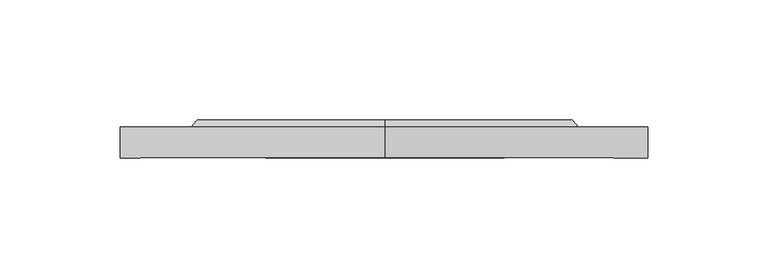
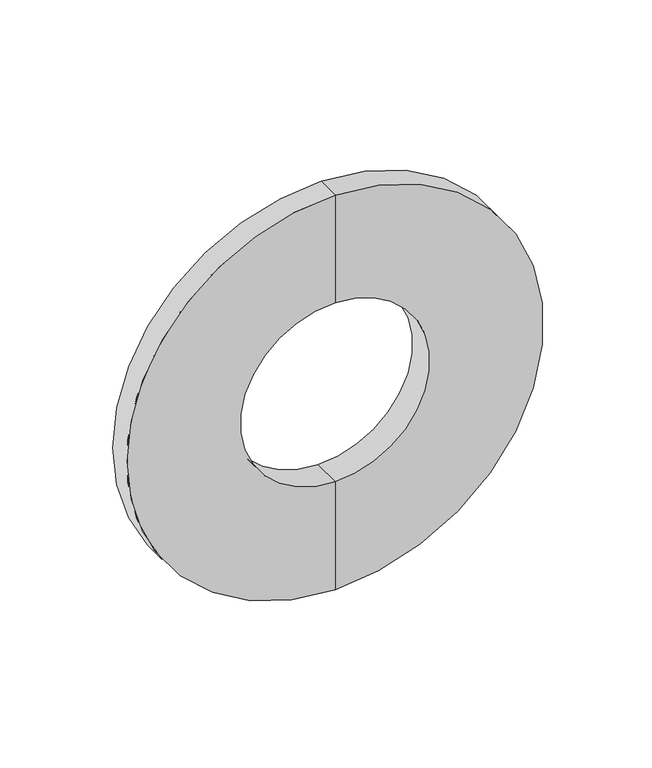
"""IFC4 building model written with IfcOpenShell, lengths in millimetres: pipe fitting geometry, Фланец : Фланец."""

from ifc_helpers import new_model, si_unit, frame, origin, place, context, project, spatial, polyline, circle_curve, source, transform, mapped, element, save
from ifc_brep_helpers import plane_surface, cylinder_surface, revolved_surface, advanced_brep


def pipe_fitting_22e410b1(model_context):
    return source(origin(), model_context, "Body", "AdvancedBrep", [
        advanced_brep(
        [(0.0, 0.0, -110.0), (0.0, 0.0, 110.0), (0.0, 12.7, 110.0), (0.0, 12.7, -110.0), (0.0, 0.0, -50.0), (0.0, 0.0, 50.0), (0.0, 15.7, -50.0), (0.0, 15.7, 50.0), (0.0, 15.7, -78.5), (0.0, 15.7, 78.5), (0.0, 12.7, -81.0), (0.0, 12.7, 81.0)],
        [
            (0, 1, circle_curve(frame((0.0, 0.0, 0.0), z_axis=(0.0, 1.0, 0.0), x_axis=(0.0, 0.0, 1.0)), 110.0)),
            (1, 2),
            (2, 3, circle_curve(frame((0.0, 12.7, 0.0), z_axis=(0.0, -1.0, 0.0), x_axis=(0.0, 0.0, 1.0)), 110.0)),
            (3, 0),
            (1, 0, circle_curve(frame((0.0, 0.0, 0.0), z_axis=(0.0, 1.0, 0.0), x_axis=(0.0, 0.0, 1.0)), 110.0)),
            (3, 2, circle_curve(frame((0.0, 12.7, 0.0), z_axis=(0.0, -1.0, 0.0), x_axis=(0.0, 0.0, 1.0)), 110.0)),
            (4, 5, circle_curve(frame((0.0, 0.0, 0.0), z_axis=(0.0, 1.0, 0.0), x_axis=(0.0, 0.0, 1.0)), 50.0)),
            (5, 1),
            (0, 4),
            (5, 4, circle_curve(frame((0.0, 0.0, 0.0), z_axis=(0.0, 1.0, 0.0), x_axis=(0.0, 0.0, 1.0)), 50.0)),
            (6, 7, circle_curve(frame((0.0, 15.7, 0.0), z_axis=(0.0, 1.0, 0.0), x_axis=(0.0, 0.0, 1.0)), 50.0)),
            (7, 5),
            (4, 6),
            (7, 6, circle_curve(frame((0.0, 15.7, 0.0), z_axis=(0.0, 1.0, 0.0), x_axis=(0.0, 0.0, 1.0)), 50.0)),
            (8, 9, circle_curve(frame((0.0, 15.7, 0.0), z_axis=(0.0, 1.0, 0.0), x_axis=(0.0, 0.0, 1.0)), 78.5)),
            (9, 7),
            (6, 8),
            (9, 8, circle_curve(frame((0.0, 15.7, 0.0), z_axis=(0.0, 1.0, 0.0), x_axis=(0.0, 0.0, 1.0)), 78.5)),
            (10, 11, circle_curve(frame((0.0, 12.7, 0.0), z_axis=(0.0, 1.0, 0.0), x_axis=(0.0, 0.0, 1.0)), 81.0)),
            (11, 9),
            (8, 10),
            (11, 10, circle_curve(frame((0.0, 12.7, 0.0), z_axis=(0.0, 1.0, 0.0), x_axis=(0.0, 0.0, 1.0)), 81.0)),
            (2, 11),
            (10, 3),
        ],
        [
            cylinder_surface(frame((0.0, -60.0, 0.0), z_axis=(0.0, -1.0, 0.0), x_axis=(0.0, 0.0, 1.0)), 110.0),
            plane_surface(frame((0.0, 0.0, 0.0), z_axis=(0.0, -1.0, 0.0), x_axis=(0.0, 0.0, 1.0))),
            revolved_surface(polyline([(0.0, 0.0, 50.0), (0.0, 15.700000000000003, 50.0)]), (0.0, -60.0, 0.0), (0.0, -1.0, 0.0)),
            plane_surface(frame((0.0, 15.7, 0.0), z_axis=(0.0, 1.0, 0.0), x_axis=(0.0, 0.0, 1.0))),
            revolved_surface(polyline([(0.0, 15.7, 78.5), (0.0, 12.7, 81.0)]), (0.0, -60.0, 0.0), (0.0, -1.0, 0.0)),
            plane_surface(frame((0.0, 12.7, 0.0), z_axis=(0.0, 1.0, 0.0), x_axis=(0.0, 0.0, 1.0))),
        ],
        [
            (0, [[1, 2, 3, 4]]),
            (0, [[5, -4, 6, -2]]),
            (1, [[7, 8, -1, 9]]),
            (1, [[10, -9, -5, -8]]),
            (2, [[11, 12, -7, 13]]),
            (2, [[14, -13, -10, -12]]),
            (3, [[15, 16, -11, 17]]),
            (3, [[18, -17, -14, -16]]),
            (4, [[19, 20, -15, 21]]),
            (4, [[22, -21, -18, -20]]),
            (5, [[-3, 23, -19, 24]]),
            (5, [[-6, -24, -22, -23]]),
        ],
    ),
    ])


if __name__ == "__main__":
    model = new_model("IFC4")
    model_context = context("Model", 3, world=origin())
    ifc_project = project(units=[si_unit("LENGTHUNIT", "METRE", prefix="MILLI")], contexts=[model_context])
    site = spatial("IfcSite", under=ifc_project)
    building = spatial("IfcBuilding", under=site)
    placement = place(None, origin())
    pipe_fitting_shape = pipe_fitting_22e410b1(model_context)
    element("IfcPipeFitting", 1, ObjectType="Фланец : Фланец", at=placement, inside=building, context=model_context, shape_type="MappedRepresentation", body=[
        mapped(pipe_fitting_shape, transform((0.0, 0.0, 0.0), x_axis=(1.0, 0.0, 0.0), y_axis=(0.0, 1.0, 0.0), z_axis=(0.0, 0.0, 1.0))),
    ])
    save(model, "model.ifc")
